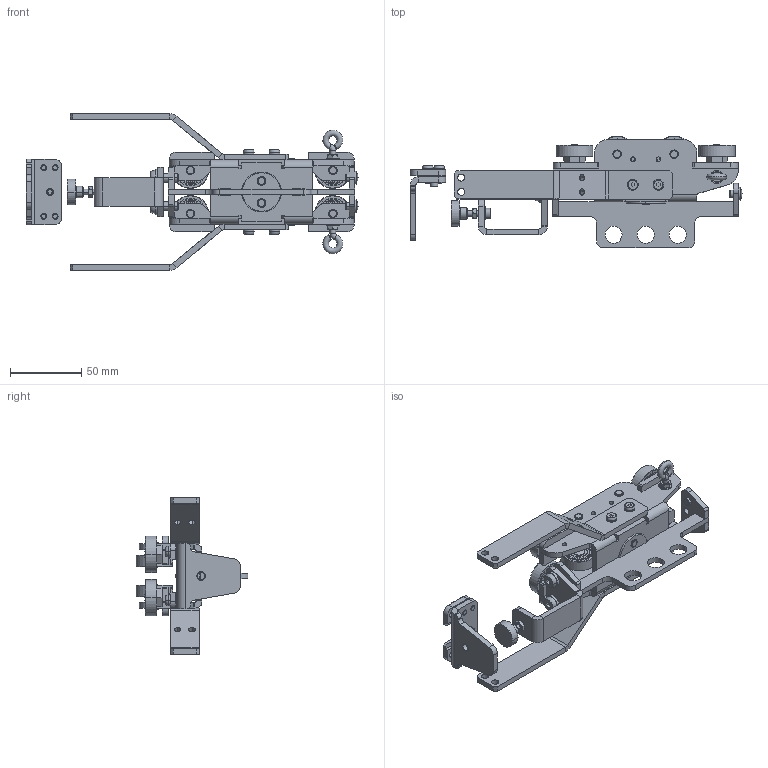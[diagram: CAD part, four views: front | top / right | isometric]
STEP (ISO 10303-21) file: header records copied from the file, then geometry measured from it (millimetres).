
FILE_DESCRIPTION((''),'2;1');
FILE_NAME('31000105_O_LW_HD_MAGN_OESE_GEG_ASM','2021-03-17T',('iv'),(''),'PRO/ENGINEER BY PARAMETRIC TECHNOLOGY CORPORATION, 2016010','PRO/ENGINEER BY PARAMETRIC TECHNOLOGY CORPORATION, 2016010','');
FILE_SCHEMA(('CONFIG_CONTROL_DESIGN'));
Length unit declared in the file: millimetre
Products named in the file (35): 31000051_01_WAGEN_KOERPER; 31701011_01_02_03_ROLLE_PLATTE; 31000051_01_01_WAGEN_BEARB_ASM; 31000051_03_PLATTE_ABHAENGUNG; 31000051_05A_STOSSPLATTE; 31000051_04_01_ADAPTER_UNTEN; 31000051_03_01A_STOFFABHAENGUNG_ASM; 31000051_06_01_ADAPTER_OBEN; 31000051_07_01_RAD_INNEN; 31000051_07_02_RAD_AUSSEN; 31000051_07_03_01_608_2Z_INNEN; 31000051_07_03_02_608_2Z_AUSSEN; 31000051_07_03_03_608_2Z_KUGEL; 31000051_07_03_608_2Z_RILLENKUG_ASM; 31000051_07_RAD_D25_ASM; I10642_06_010_88; BLINDNIET_BLN_H9074; 31000102_01_01_LW_HD_BEARBEITUN_ASM; 31000102_01_02_UEBUEGEL; 31000105_01_01_MAGNETHALTER; 31970262_01_MAGNET; D127_A_0061_ST; I7380_06_16_ST; D125_T1_A_0043_140_ST; E24032_MT_040_8; D912_0040_0160_88; D127_A_0041_ST; I7380_04_10_ST; 0730_0091_01_M4_10; 31000105_01_LW-HD_M_UEBERZ_MAGN_ASM; 31000105_02_01_WINKEL; 31000105_02_02_GEGENPLATTE; D916_050_080_ST; 31000105_02_GEGENPLATTE_KLEMMBA_ASM; 31000105_O_LW_HD_MAGN_OESE_GEG_ASM
Assembly tree (76 placements, depth 6):
  31000105_O_LW_HD_MAGN_OESE_GEG_ASM
    31000105_01_LW-HD_M_UEBERZ_MAGN_ASM
      31000102_01_01_LW_HD_BEARBEITUN_ASM
        31000051_01_01_WAGEN_BEARB_ASM
          31000051_01_WAGEN_KOERPER
          31701011_01_02_03_ROLLE_PLATTE  x4
        31000051_03_01A_STOFFABHAENGUNG_ASM
          31000051_03_PLATTE_ABHAENGUNG
          31000051_05A_STOSSPLATTE  x2
          31000051_04_01_ADAPTER_UNTEN
        31000051_06_01_ADAPTER_OBEN
        31000051_07_RAD_D25_ASM  x8
          31000051_07_01_RAD_INNEN
          31000051_07_02_RAD_AUSSEN
          31000051_07_03_608_2Z_RILLENKUG_ASM
            31000051_07_03_01_608_2Z_INNEN
            31000051_07_03_02_608_2Z_AUSSEN
            31000051_07_03_03_608_2Z_KUGEL  x7
        I10642_06_010_88  x2
        BLINDNIET_BLN_H9074  x2
      31000102_01_02_UEBUEGEL  x2
      31000105_01_01_MAGNETHALTER
      31970262_01_MAGNET
      D127_A_0061_ST  x2
      I7380_06_16_ST  x2
      D125_T1_A_0043_140_ST  x3
      E24032_MT_040_8  x3
      D912_0040_0160_88
      D127_A_0041_ST  x4
      I7380_04_10_ST  x4
      0730_0091_01_M4_10  x2
    31000105_02_GEGENPLATTE_KLEMMBA_ASM
      31000105_02_01_WINKEL
      31000105_02_02_GEGENPLATTE  x2
      D127_A_0041_ST  x4
      I7380_04_10_ST  x4
      D916_050_080_ST
Bounding box: 233.2 x 78.6 x 110 mm (x, y, z)
Volume: 148881.5 mm3; surface area: 125959.8 mm2
Topology: 139 solids, 170 shells, 2173 faces, 5014 edges, 2979 vertices
Faces by surface type: cylinder 710, plane 691, cone 428, torus 192, sphere 152
Entity records: 22230 total; most frequent: DIRECTION 4117, CARTESIAN_POINT 3982, ORIENTED_EDGE 3306, EDGE_CURVE 1681, AXIS2_PLACEMENT_3D 1597, VERTEX_POINT 1056, VECTOR 923, LINE 923
